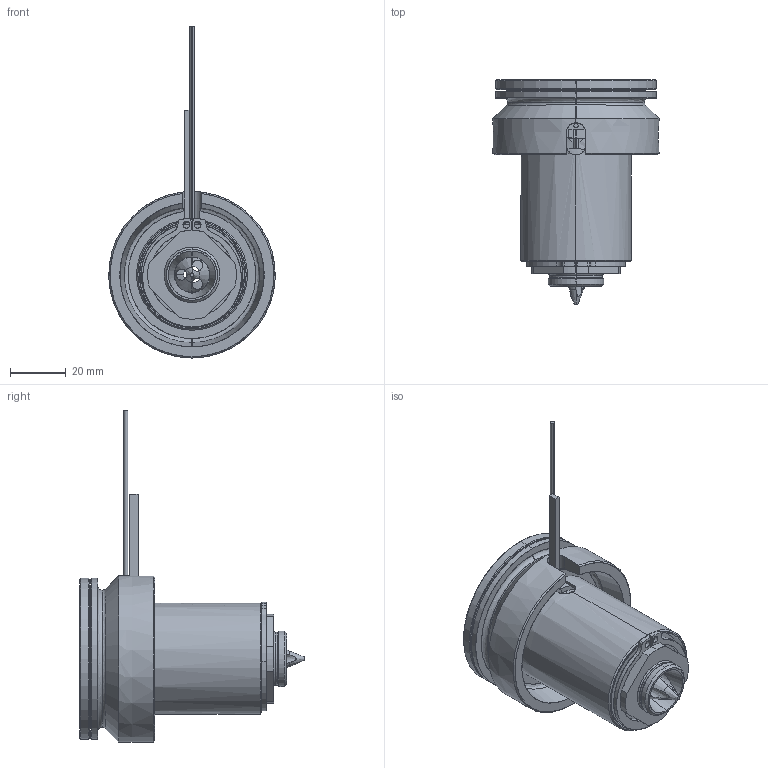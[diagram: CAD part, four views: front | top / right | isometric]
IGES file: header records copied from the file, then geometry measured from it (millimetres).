
Start section: SolidWorks IGES file using analytic representation for surfaces
Global section: file name: C:\Documents and Settings\ws-20\Desktop\TEM\UGEP6002-S-A-0 [Øf-1.3 ØC-16].IGS; native system: SolidWorks 2012; preprocessor: SolidWorks 2012; author: ws-20; date: 120427.093649; units: millimetre
Bounding box: 60 x 80.8 x 119.65 mm (x, y, z)
Surface area: 39443.3 mm2 (no closed solid volume)
Topology: 0 solids, 0 shells, 138 faces, 2759 edges, 2759 vertices
Faces by surface type: revolution 91, bspline 47
